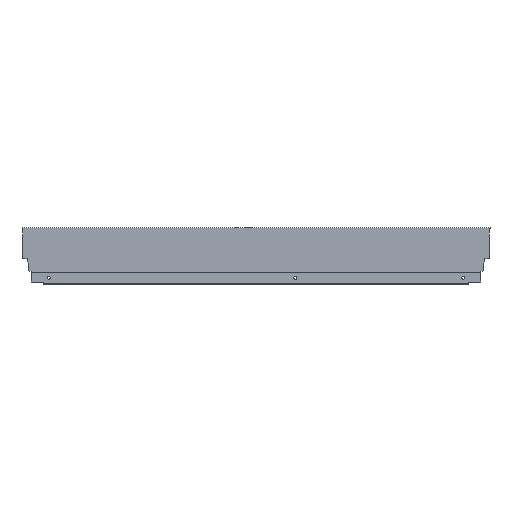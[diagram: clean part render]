
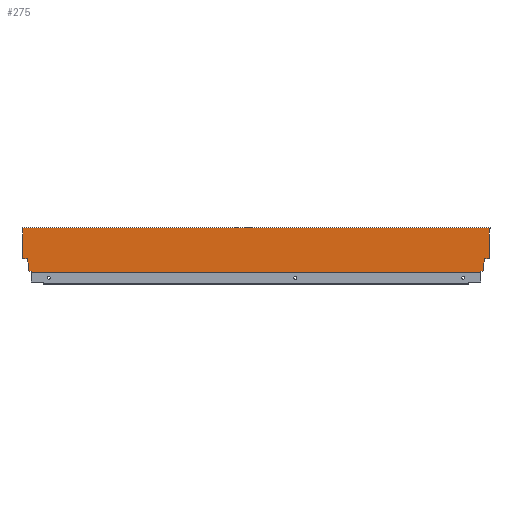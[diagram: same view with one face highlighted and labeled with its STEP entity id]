
A CAD part, top view. The second image highlights one B-rep face of the part: STEP entity #275.
In plain terms, the highlighted planar face has unit normal (0, 0, 1).
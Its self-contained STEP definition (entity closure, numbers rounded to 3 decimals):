
#66 = FACE_OUTER_BOUND ( 'NONE', #211, .T. ) ;
#211 = EDGE_LOOP ( 'NONE', ( #555, #559, #554, #557, #556, #558, #552, #370, #371, #372, #369, #400, #401, #402, #406, #407, #408, #403 ) ) ;
#275 = ADVANCED_FACE ( 'NONE', ( #66 ), #1155, .T. ) ;
#369 = ORIENTED_EDGE ( 'NONE', *, *, #1615, .F. ) ;
#370 = ORIENTED_EDGE ( 'NONE', *, *, #1612, .F. ) ;
#371 = ORIENTED_EDGE ( 'NONE', *, *, #1613, .F. ) ;
#372 = ORIENTED_EDGE ( 'NONE', *, *, #1603, .T. ) ;
#400 = ORIENTED_EDGE ( 'NONE', *, *, #1617, .F. ) ;
#401 = ORIENTED_EDGE ( 'NONE', *, *, #1614, .F. ) ;
#402 = ORIENTED_EDGE ( 'NONE', *, *, #1616, .F. ) ;
#403 = ORIENTED_EDGE ( 'NONE', *, *, #1622, .F. ) ;
#406 = ORIENTED_EDGE ( 'NONE', *, *, #1618, .F. ) ;
#407 = ORIENTED_EDGE ( 'NONE', *, *, #1586, .F. ) ;
#408 = ORIENTED_EDGE ( 'NONE', *, *, #1620, .F. ) ;
#552 = ORIENTED_EDGE ( 'NONE', *, *, #1611, .F. ) ;
#554 = ORIENTED_EDGE ( 'NONE', *, *, #1605, .T. ) ;
#555 = ORIENTED_EDGE ( 'NONE', *, *, #1609, .F. ) ;
#556 = ORIENTED_EDGE ( 'NONE', *, *, #1607, .F. ) ;
#557 = ORIENTED_EDGE ( 'NONE', *, *, #1610, .T. ) ;
#558 = ORIENTED_EDGE ( 'NONE', *, *, #1604, .F. ) ;
#559 = ORIENTED_EDGE ( 'NONE', *, *, #1608, .F. ) ;
#647 = AXIS2_PLACEMENT_3D ( 'NONE', #1154, #1160, #1161 ) ;
#682 = LINE ( 'NONE', #1368, #683 ) ;
#683 = VECTOR ( 'NONE', #1369, 1000. ) ;
#705 = LINE ( 'NONE', #1405, #711 ) ;
#710 = LINE ( 'NONE', #1407, #727 ) ;
#711 = VECTOR ( 'NONE', #1406, 1000. ) ;
#713 = LINE ( 'NONE', #1400, #715 ) ;
#715 = VECTOR ( 'NONE', #1408, 1000. ) ;
#717 = LINE ( 'NONE', #1409, #718 ) ;
#718 = VECTOR ( 'NONE', #1410, 1000. ) ;
#721 = LINE ( 'NONE', #1413, #722 ) ;
#722 = VECTOR ( 'NONE', #1414, 1000. ) ;
#723 = LINE ( 'NONE', #1415, #724 ) ;
#724 = VECTOR ( 'NONE', #1416, 1000. ) ;
#725 = LINE ( 'NONE', #1417, #726 ) ;
#726 = VECTOR ( 'NONE', #1418, 1000. ) ;
#727 = VECTOR ( 'NONE', #1420, 1000. ) ;
#729 = LINE ( 'NONE', #1421, #730 ) ;
#730 = VECTOR ( 'NONE', #1422, 1000. ) ;
#731 = LINE ( 'NONE', #1423, #732 ) ;
#732 = VECTOR ( 'NONE', #1424, 1000. ) ;
#733 = LINE ( 'NONE', #1425, #734 ) ;
#734 = VECTOR ( 'NONE', #1426, 1000. ) ;
#735 = LINE ( 'NONE', #1427, #736 ) ;
#736 = VECTOR ( 'NONE', #1428, 1000. ) ;
#737 = LINE ( 'NONE', #1429, #738 ) ;
#738 = VECTOR ( 'NONE', #1430, 1000. ) ;
#739 = LINE ( 'NONE', #1431, #740 ) ;
#740 = VECTOR ( 'NONE', #1432, 1000. ) ;
#741 = LINE ( 'NONE', #1433, #742 ) ;
#742 = VECTOR ( 'NONE', #1434, 1000. ) ;
#743 = LINE ( 'NONE', #1435, #744 ) ;
#744 = VECTOR ( 'NONE', #1436, 1000. ) ;
#747 = LINE ( 'NONE', #1439, #748 ) ;
#748 = VECTOR ( 'NONE', #1440, 1000. ) ;
#751 = LINE ( 'NONE', #1443, #752 ) ;
#752 = VECTOR ( 'NONE', #1444, 1000. ) ;
#866 = VERTEX_POINT ( 'NONE', #1235 ) ;
#868 = VERTEX_POINT ( 'NONE', #1243 ) ;
#870 = VERTEX_POINT ( 'NONE', #1245 ) ;
#871 = VERTEX_POINT ( 'NONE', #1246 ) ;
#875 = VERTEX_POINT ( 'NONE', #1250 ) ;
#882 = VERTEX_POINT ( 'NONE', #1257 ) ;
#884 = VERTEX_POINT ( 'NONE', #1259 ) ;
#886 = VERTEX_POINT ( 'NONE', #1261 ) ;
#888 = VERTEX_POINT ( 'NONE', #1263 ) ;
#889 = VERTEX_POINT ( 'NONE', #1264 ) ;
#890 = VERTEX_POINT ( 'NONE', #1265 ) ;
#893 = VERTEX_POINT ( 'NONE', #1268 ) ;
#894 = VERTEX_POINT ( 'NONE', #1269 ) ;
#895 = VERTEX_POINT ( 'NONE', #1270 ) ;
#896 = VERTEX_POINT ( 'NONE', #1271 ) ;
#897 = VERTEX_POINT ( 'NONE', #1272 ) ;
#898 = VERTEX_POINT ( 'NONE', #1273 ) ;
#900 = VERTEX_POINT ( 'NONE', #1275 ) ;
#1154 = CARTESIAN_POINT ( 'NONE',  ( -713., 0., 7.5 ) ) ;
#1155 = PLANE ( 'NONE',  #647 ) ;
#1160 = DIRECTION ( 'NONE',  ( 0., 0., 1. ) ) ;
#1161 = DIRECTION ( 'NONE',  ( 1., 0., 0. ) ) ;
#1235 = CARTESIAN_POINT ( 'NONE',  ( -13.004, 1.146, 7.5 ) ) ;
#1243 = CARTESIAN_POINT ( 'NONE',  ( -7.06, 21.2, 7.5 ) ) ;
#1245 = CARTESIAN_POINT ( 'NONE',  ( -713., 21.2, 7.5 ) ) ;
#1246 = CARTESIAN_POINT ( 'NONE',  ( -714., 66.5, 7.5 ) ) ;
#1250 = CARTESIAN_POINT ( 'NONE',  ( -699.996, 0., 7.5 ) ) ;
#1257 = CARTESIAN_POINT ( 'NONE',  ( 1., 66.5, 7.5 ) ) ;
#1259 = CARTESIAN_POINT ( 'NONE',  ( -8.9, 2.64, 7.5 ) ) ;
#1261 = CARTESIAN_POINT ( 'NONE',  ( -714., 68., 7.5 ) ) ;
#1263 = CARTESIAN_POINT ( 'NONE',  ( -8.9, 10.765, 7.5 ) ) ;
#1264 = CARTESIAN_POINT ( 'NONE',  ( -704.1, 10.765, 7.5 ) ) ;
#1265 = CARTESIAN_POINT ( 'NONE',  ( -705.94, 21.2, 7.5 ) ) ;
#1268 = CARTESIAN_POINT ( 'NONE',  ( -713., 66.5, 7.5 ) ) ;
#1269 = CARTESIAN_POINT ( 'NONE',  ( -704.1, 2.64, 7.5 ) ) ;
#1270 = CARTESIAN_POINT ( 'NONE',  ( 0., 21.2, 7.5 ) ) ;
#1271 = CARTESIAN_POINT ( 'NONE',  ( 0., 66.5, 7.5 ) ) ;
#1272 = CARTESIAN_POINT ( 'NONE',  ( 1., 68., 7.5 ) ) ;
#1273 = CARTESIAN_POINT ( 'NONE',  ( -13.004, 0., 7.5 ) ) ;
#1275 = CARTESIAN_POINT ( 'NONE',  ( -699.996, 1.146, 7.5 ) ) ;
#1368 = CARTESIAN_POINT ( 'NONE',  ( 0., 0., 7.5 ) ) ;
#1369 = DIRECTION ( 'NONE',  ( 0., -1., 0. ) ) ;
#1400 = CARTESIAN_POINT ( 'NONE',  ( -705.94, 21.2, 7.5 ) ) ;
#1405 = CARTESIAN_POINT ( 'NONE',  ( -713., 0., 7.5 ) ) ;
#1406 = DIRECTION ( 'NONE',  ( 1., 0., 0. ) ) ;
#1407 = CARTESIAN_POINT ( 'NONE',  ( -713., 0., 7.5 ) ) ;
#1408 = DIRECTION ( 'NONE',  ( -0.174, 0.985, 0. ) ) ;
#1409 = CARTESIAN_POINT ( 'NONE',  ( -714., 66.5, 7.5 ) ) ;
#1410 = DIRECTION ( 'NONE',  ( 1., 0., 0. ) ) ;
#1413 = CARTESIAN_POINT ( 'NONE',  ( -718., 21.2, 7.5 ) ) ;
#1414 = DIRECTION ( 'NONE',  ( -1., 0., 0. ) ) ;
#1415 = CARTESIAN_POINT ( 'NONE',  ( -714., 66.5, 7.5 ) ) ;
#1416 = DIRECTION ( 'NONE',  ( 0., 1., 0. ) ) ;
#1417 = CARTESIAN_POINT ( 'NONE',  ( -713., 68., 7.5 ) ) ;
#1418 = DIRECTION ( 'NONE',  ( 1., 0., 0. ) ) ;
#1420 = DIRECTION ( 'NONE',  ( 0., -1., 0. ) ) ;
#1421 = CARTESIAN_POINT ( 'NONE',  ( -704.1, 10.765, 7.5 ) ) ;
#1422 = DIRECTION ( 'NONE',  ( 0., 1., 0. ) ) ;
#1423 = CARTESIAN_POINT ( 'NONE',  ( -704.1, 2.64, 7.5 ) ) ;
#1424 = DIRECTION ( 'NONE',  ( -0.94, 0.342, 0. ) ) ;
#1425 = CARTESIAN_POINT ( 'NONE',  ( -699.996, 1.146, 7.5 ) ) ;
#1426 = DIRECTION ( 'NONE',  ( 0., 1., 0. ) ) ;
#1427 = CARTESIAN_POINT ( 'NONE',  ( -8.9, 10.765, 7.5 ) ) ;
#1428 = DIRECTION ( 'NONE',  ( 0., -1., 0. ) ) ;
#1429 = CARTESIAN_POINT ( 'NONE',  ( -13.004, 1.146, 7.5 ) ) ;
#1430 = DIRECTION ( 'NONE',  ( 0., -1., 0. ) ) ;
#1431 = CARTESIAN_POINT ( 'NONE',  ( -7.06, 21.2, 7.5 ) ) ;
#1432 = DIRECTION ( 'NONE',  ( -0.174, -0.985, 0. ) ) ;
#1433 = CARTESIAN_POINT ( 'NONE',  ( -8.9, 2.64, 7.5 ) ) ;
#1434 = DIRECTION ( 'NONE',  ( -0.94, -0.342, 0. ) ) ;
#1435 = CARTESIAN_POINT ( 'NONE',  ( 0., 21.2, 7.5 ) ) ;
#1436 = DIRECTION ( 'NONE',  ( -1., 0., 0. ) ) ;
#1439 = CARTESIAN_POINT ( 'NONE',  ( 1., 66.5, 7.5 ) ) ;
#1440 = DIRECTION ( 'NONE',  ( -1., 0., 0. ) ) ;
#1443 = CARTESIAN_POINT ( 'NONE',  ( 1., 68., 7.5 ) ) ;
#1444 = DIRECTION ( 'NONE',  ( 0., -1., 0. ) ) ;
#1586 = EDGE_CURVE ( 'NONE', #896, #895, #682, .T. ) ;
#1603 = EDGE_CURVE ( 'NONE', #875, #898, #705, .T. ) ;
#1604 = EDGE_CURVE ( 'NONE', #889, #890, #713, .T. ) ;
#1605 = EDGE_CURVE ( 'NONE', #871, #893, #717, .T. ) ;
#1607 = EDGE_CURVE ( 'NONE', #890, #870, #721, .T. ) ;
#1608 = EDGE_CURVE ( 'NONE', #871, #886, #723, .T. ) ;
#1609 = EDGE_CURVE ( 'NONE', #886, #897, #725, .T. ) ;
#1610 = EDGE_CURVE ( 'NONE', #893, #870, #710, .T. ) ;
#1611 = EDGE_CURVE ( 'NONE', #894, #889, #729, .T. ) ;
#1612 = EDGE_CURVE ( 'NONE', #900, #894, #731, .T. ) ;
#1613 = EDGE_CURVE ( 'NONE', #875, #900, #733, .T. ) ;
#1614 = EDGE_CURVE ( 'NONE', #888, #884, #735, .T. ) ;
#1615 = EDGE_CURVE ( 'NONE', #866, #898, #737, .T. ) ;
#1616 = EDGE_CURVE ( 'NONE', #868, #888, #739, .T. ) ;
#1617 = EDGE_CURVE ( 'NONE', #884, #866, #741, .T. ) ;
#1618 = EDGE_CURVE ( 'NONE', #895, #868, #743, .T. ) ;
#1620 = EDGE_CURVE ( 'NONE', #882, #896, #747, .T. ) ;
#1622 = EDGE_CURVE ( 'NONE', #897, #882, #751, .T. ) ;
